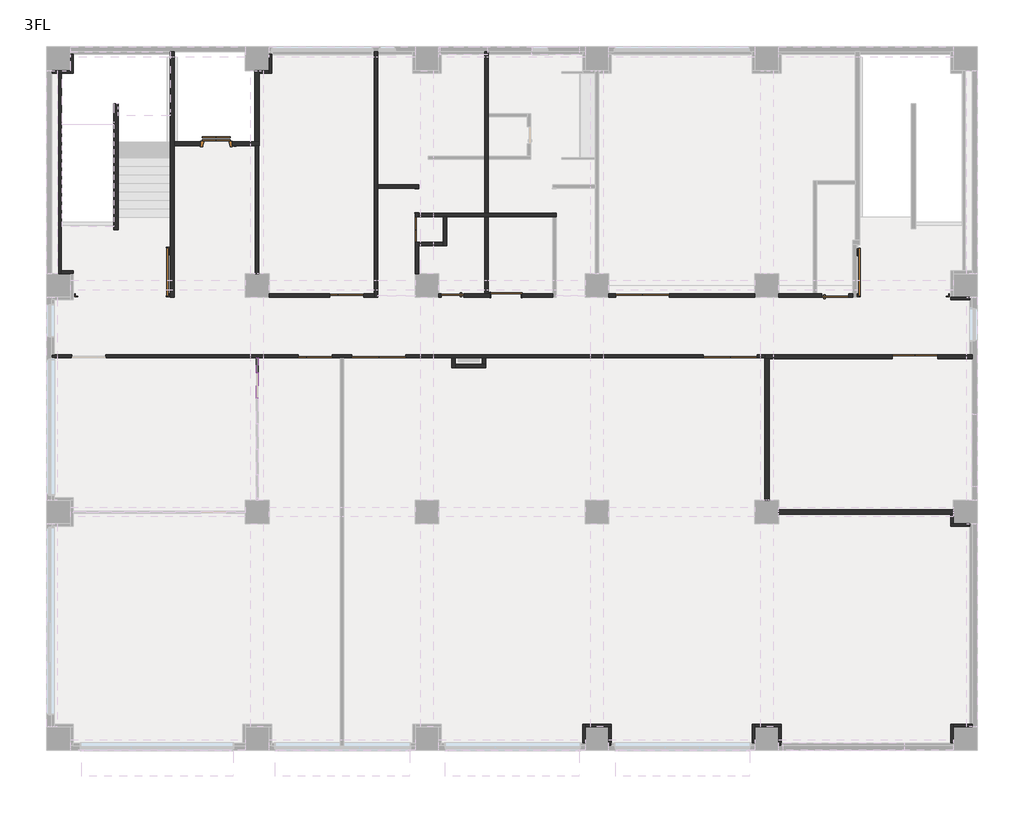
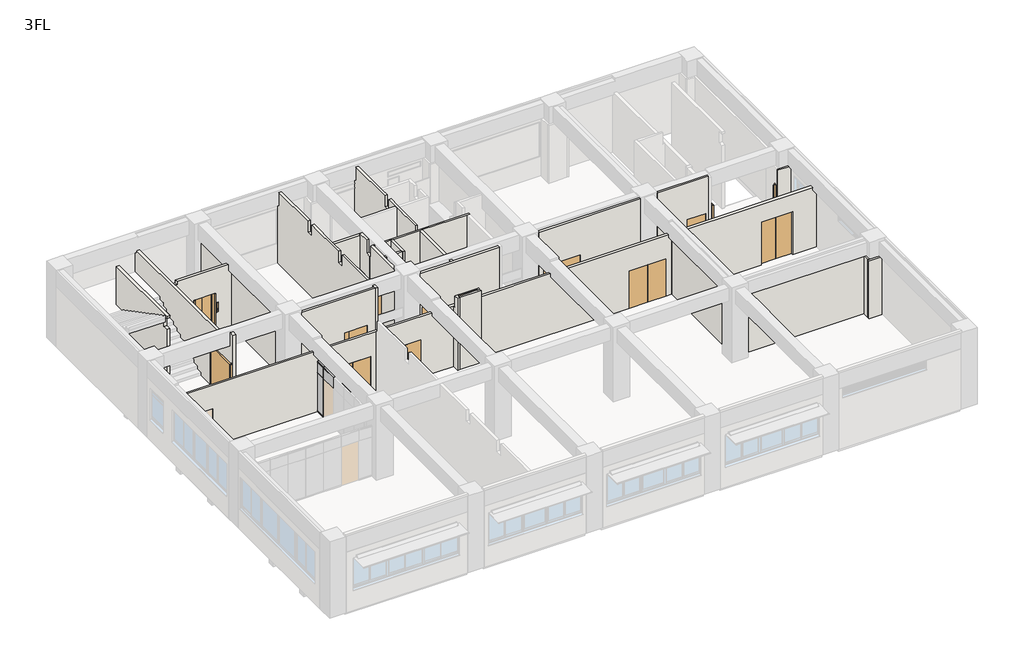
# One storey, part 2 of 6: 40 walls, 14 doors, 3 plates.
"""IFC4 building model written with IfcOpenShell, lengths in millimetres."""

from ifc_helpers import new_model, si_unit, frame, origin, place, context, project, spatial, polyline, outline, extrude, faceted_brep, transform, mapped, element, save
from components import door_0812e9ce, door_48d1ee04, door_c235f466, door_18b0804b, door_dd0264bc, door_2816d948, door_f9cae23c, door_7458d189, door_9fa6e922, door_14d6dc4f, sd12_bd36843f, sd13_d994cb3e, plate_95e3ff3d, plate_6b89f69e, plate_53a28b3e

model = new_model("IFC4")

# Units and contexts
model_context = context("Model", 3, world=origin())
ifc_project = project(units=[si_unit("LENGTHUNIT", "METRE", prefix="MILLI")], contexts=[model_context])

# Site, building, storey
site = spatial("IfcSite", under=ifc_project)
building = spatial("IfcBuilding", under=site)
storey = spatial("IfcBuildingStorey", under=building, Name="3FL", Elevation=8200.0)

# Doors
placement = place(None, origin())
door_shape = door_0812e9ce(model_context)
element("IfcDoor", 1, ObjectType="営_片開き扉 : LD3 950*2000", at=placement, inside=storey, context=model_context, shape_type="MappedRepresentation", body=[
    mapped(door_shape, transform((27410.0, 15640.0, 8200.0), x_axis=(1.0, 0.0, 0.0), y_axis=(0.0, 1.0, 0.0), z_axis=(0.0, 0.0, 1.0))),
])
door_2_shape = door_48d1ee04(model_context)
element("IfcDoor", 2, ObjectType="営_片開き扉 : LD11 850*2000", at=placement, inside=storey, context=model_context, shape_type="MappedRepresentation", body=[
    mapped(door_2_shape, transform((13900.0, 15640.0, 8200.0), x_axis=(-1.0, 0.0, 0.0), y_axis=(0.0, -1.0, 0.0), z_axis=(0.0, 0.0, 1.0))),
])
door_3_shape = door_c235f466(model_context)
element("IfcDoor", 3, ObjectType="営_親子扉 : LD2 1200*2000", at=placement, inside=storey, context=model_context, shape_type="MappedRepresentation", body=[
    mapped(door_3_shape, transform((9060.0, 13500.0, 8200.0), x_axis=(1.0, 0.0, 0.0), y_axis=(0.0, 1.0, 0.0), z_axis=(0.0, 0.0, 1.0))),
])
door_4_shape = door_18b0804b(model_context)
element("IfcDoor", 4, ObjectType="営_親子扉 : LD2 1200*2000", at=placement, inside=storey, context=model_context, shape_type="MappedRepresentation", body=[
    mapped(door_4_shape, transform((10162.645491, 15640.0, 8200.0), x_axis=(1.0, 0.0, 0.0), y_axis=(0.0, 1.0, 0.0), z_axis=(0.0, 0.0, 1.0))),
])
door_5_shape = door_dd0264bc(model_context)
element("IfcDoor", 5, ObjectType="営_両開き扉 : SD3b 1600*2300", at=placement, inside=storey, context=model_context, shape_type="MappedRepresentation", body=[
    mapped(door_5_shape, transform((30235.0, 13480.0, 8200.0), x_axis=(1.0, 0.0, 0.0), y_axis=(0.0, 1.0, 0.0), z_axis=(0.0, 0.0, 1.0))),
])
door_6_shape = door_2816d948(model_context)
element("IfcDoor", 6, ObjectType="営_両開き扉 : LD4 1900*2000", at=placement, inside=storey, context=model_context, shape_type="MappedRepresentation", body=[
    mapped(door_6_shape, transform((20610.0, 15640.0, 8200.0), x_axis=(1.0, 0.0, 0.0), y_axis=(0.0, 1.0, 0.0), z_axis=(0.0, 0.0, 1.0))),
])
element("IfcDoor", 7, ObjectType="営_両開き扉 : LD4 1900*2000", at=placement, inside=storey, context=model_context, shape_type="MappedRepresentation", body=[
    mapped(door_6_shape, transform((11290.0, 13500.0, 8200.0), x_axis=(-1.0, 0.0, 0.0), y_axis=(0.0, -1.0, 0.0), z_axis=(0.0, 0.0, 1.0))),
])
element("IfcDoor", 8, ObjectType="営_両開き扉 : LD4 1900*2000", at=placement, inside=storey, context=model_context, shape_type="MappedRepresentation", body=[
    mapped(door_6_shape, transform((23710.0, 13500.0, 8200.0), x_axis=(-1.0, 0.0, 0.0), y_axis=(0.0, -1.0, 0.0), z_axis=(0.0, 0.0, 1.0))),
])
door_7_shape = door_f9cae23c(model_context)
element("IfcDoor", 9, ObjectType="営_両開き扉 : LD5 900*2000", at=placement, inside=storey, context=model_context, shape_type="MappedRepresentation", body=[
    mapped(door_7_shape, transform((12640.0, 17975.0, 8200.0), x_axis=(0.0, 1.0, 0.0), y_axis=(-1.0, 0.0, 0.0), z_axis=(0.0, 0.0, 1.0))),
])
door_8_shape = door_7458d189(model_context)
element("IfcDoor", 10, ObjectType="営_引戸／引込戸 : LD1 960*2000", at=placement, inside=storey, context=model_context, shape_type="MappedRepresentation", body=[
    mapped(door_8_shape, transform((15800.0, 15640.0, 8200.0), x_axis=(1.0, 0.0, 0.0), y_axis=(0.0, 1.0, 0.0), z_axis=(0.0, 0.0, 1.0))),
])
door_9_shape = door_9fa6e922(model_context)
element("IfcDoor", 11, ObjectType="営_EVドア : EVドア", at=placement, inside=storey, context=model_context, shape_type="MappedRepresentation", body=[
    mapped(door_9_shape, transform((5560.0, 21000.0, 8200.0), x_axis=(1.0, 0.0, 0.0), y_axis=(0.0, 1.0, 0.0), z_axis=(0.0, 0.0, 1.0))),
])
door_10_shape = door_14d6dc4f(model_context)
element("IfcDoor", 12, ObjectType="営_三方枠 : S1_850*2000", at=placement, inside=storey, context=model_context, shape_type="MappedRepresentation", body=[
    mapped(door_10_shape, transform((12640.0, 18990.25, 8200.0), x_axis=(0.0, 1.0, 0.0), y_axis=(-1.0, 0.0, 0.0), z_axis=(0.0, 0.0, 1.0))),
])
sd12_shape = sd12_bd36843f(model_context)
element("IfcDoor", 13, ObjectType="営_随閉扉 B階段 2～4F : SD12", at=placement, inside=storey, context=model_context, shape_type="MappedRepresentation", body=[
    mapped(sd12_shape, transform((4000.0, 15640.0, 8200.0), x_axis=(0.0, -1.0, 0.0), y_axis=(1.0, 0.0, 0.0), z_axis=(0.0, 0.0, 1.0))),
])
sd13_shape = sd13_d994cb3e(model_context)
element("IfcDoor", 14, ObjectType="営_随閉扉 B階段 2～4F : SD13", at=placement, inside=storey, context=model_context, shape_type="MappedRepresentation", body=[
    mapped(sd13_shape, transform((28100.0, 15640.0, 8200.0), x_axis=(0.0, -1.0, 0.0), y_axis=(1.0, 0.0, 0.0), z_axis=(0.0, 0.0, 1.0))),
])

# Plates
plate_shape = plate_95e3ff3d(model_context)
element("IfcPlate", 15, ObjectType="営_パーティションパネル_下部 : パーティションパネル_下部", at=placement, inside=storey, context=model_context, shape_type="MappedRepresentation", body=[
    mapped(plate_shape, transform((7000.0, 13175.0000002, 8200.0), x_axis=(0.0, 1.0, 0.0), y_axis=(-1.0, 0.0, 0.0), z_axis=(0.0, 0.0, 1.0))),
])
plate_2_shape = plate_6b89f69e(model_context)
element("IfcPlate", 16, ObjectType="営_パーティションパネル_上部 : パーティションパネル_上部", at=placement, inside=storey, context=model_context, shape_type="MappedRepresentation", body=[
    mapped(plate_2_shape, transform((7000.0, 13175.0000002, 10300.0), x_axis=(0.0, 1.0, 0.0), y_axis=(-1.0, 0.0, 0.0), z_axis=(0.0, 0.0, 1.0))),
])
plate_3_shape = plate_53a28b3e(model_context)
element("IfcPlate", 17, ObjectType="営_パーティションパネル_上部 : パーティションパネル_上部", at=placement, inside=storey, context=model_context, shape_type="MappedRepresentation", body=[
    mapped(plate_3_shape, transform((7000.0, 12460.0000003, 10300.0), x_axis=(0.0, 1.0, 0.0), y_axis=(-1.0, 0.0, 0.0), z_axis=(0.0, 0.0, 1.0))),
])

# Walls
element("IfcWall", 18, ObjectType="(内壁)W3", at=placement, inside=storey, context=model_context, shape_type="Brep", body=[
    faceted_brep([(1655.0, 13440.0, 10200.0), (1655.0, 13440.0, 8200.0), (8460.0, 13440.0, 8200.0), (8460.0, 13440.0, 10200.0), (9660.0, 13440.0, 10200.0), (9660.0, 13440.0, 8200.0), (9940.0, 13440.0, 8200.0), (10060.0, 13440.0, 8200.0), (10340.0, 13440.0, 8200.0), (10340.0, 13440.0, 10200.0), (12240.0, 13440.0, 10200.0), (12240.0, 13440.0, 8200.0), (13870.0, 13440.0, 8200.0), (13990.0, 13440.0, 8200.0), (14950.0, 13440.0, 8200.0), (15070.0, 13440.0, 8200.0), (22760.0, 13440.0, 8200.0), (22760.0, 13440.0, 10200.0), (24660.0, 13440.0, 10200.0), (24660.0, 13440.0, 8200.0), (24925.0, 13440.0, 8200.0), (24925.0, 13440.0, 11300.0), (24775.0, 13440.0, 11300.0), (24775.0, 13440.0, 11450.0), (19225.0, 13440.0, 11450.0), (19225.0, 13440.0, 11300.0), (18775.0, 13440.0, 11300.0), (18775.0, 13440.0, 11450.0), (15070.0, 13440.0, 11450.0), (14950.0, 13440.0, 11450.0), (13990.0, 13440.0, 11450.0), (13870.0, 13440.0, 11450.0), (13225.0, 13440.0, 11450.0), (13225.0, 13440.0, 11300.0), (12775.0, 13440.0, 11300.0), (12775.0, 13440.0, 11450.0), (10060.0, 13440.0, 11450.0), (9940.0, 13440.0, 11450.0), (7225.0, 13440.0, 11450.0), (7225.0, 13440.0, 11300.0), (6775.0, 13440.0, 11300.0), (6775.0, 13440.0, 11450.0), (-50.0, 13440.0, 11450.0), (-50.0, 13440.0, 11300.0), (-160.0, 13440.0, 11300.0), (-250.0, 13440.0, 11300.0), (-250.0, 13440.0, 8200.0), (-160.0, 13440.0, 8200.0), (455.0, 13440.0, 8200.0), (455.0, 13440.0, 10200.0), (1655.0, 13560.0, 8200.0), (1655.0, 13560.0, 10200.0), (455.0, 13560.0, 10200.0), (455.0, 13560.0, 8200.0), (-160.0, 13560.0, 8200.0), (-250.0, 13560.0, 8200.0), (-250.0, 13560.0, 11300.0), (-160.0, 13560.0, 11300.0), (-50.0, 13560.0, 11300.0), (-50.0, 13560.0, 11450.0), (6775.0, 13560.0, 11450.0), (6775.0, 13560.0, 11300.0), (7225.0, 13560.0, 11300.0), (7225.0, 13560.0, 11450.0), (12775.0, 13560.0, 11450.0), (12775.0, 13560.0, 11300.0), (13225.0, 13560.0, 11300.0), (13225.0, 13560.0, 11450.0), (18775.0, 13560.0, 11450.0), (18775.0, 13560.0, 11300.0), (19225.0, 13560.0, 11300.0), (19225.0, 13560.0, 11450.0), (24775.0, 13560.0, 11450.0), (24775.0, 13560.0, 11300.0), (24925.0, 13560.0, 11300.0), (24925.0, 13560.0, 8200.0), (24660.0, 13560.0, 8200.0), (24660.0, 13560.0, 10200.0), (22760.0, 13560.0, 10200.0), (22760.0, 13560.0, 8200.0), (12240.0, 13560.0, 8200.0), (12240.0, 13560.0, 10200.0), (10340.0, 13560.0, 10200.0), (10340.0, 13560.0, 8200.0), (9660.0, 13560.0, 8200.0), (9660.0, 13560.0, 10200.0), (8460.0, 13560.0, 10200.0), (8460.0, 13560.0, 8200.0), (24925.0, 13555.0, 8200.0), (24925.0, 13555.0, 11300.0)], [[[0, 1, 2, 3, 4, 5, 6, 7, 8, 9, 10, 11, 12, 13, 14, 15, 16, 17, 18, 19, 20, 21, 22, 23, 24, 25, 26, 27, 28, 29, 30, 31, 32, 33, 34, 35, 36, 37, 38, 39, 40, 41, 42, 43, 44, 45, 46, 47, 48, 49]], [[50, 51, 52, 53, 54, 55, 56, 57, 58, 59, 60, 61, 62, 63, 64, 65, 66, 67, 68, 69, 70, 71, 72, 73, 74, 75, 76, 77, 78, 79, 80, 81, 82, 83, 84, 85, 86, 87]], [[1, 50, 87, 2]], [[5, 84, 83, 8, 7, 6]], [[11, 80, 79, 16, 15, 14, 13, 12]], [[19, 76, 75, 88, 20]], [[46, 55, 54, 53, 48, 47]], [[59, 42, 41, 60]], [[63, 38, 37, 36, 35, 64]], [[67, 32, 31, 30, 29, 28, 27, 68]], [[71, 24, 23, 72]], [[55, 46, 45, 56]], [[1, 0, 51, 50]], [[49, 48, 53, 52]], [[0, 49, 52, 51]], [[87, 86, 3, 2]], [[85, 84, 5, 4]], [[86, 85, 4, 3]], [[11, 10, 81, 80]], [[9, 8, 83, 82]], [[10, 9, 82, 81]], [[19, 18, 77, 76]], [[17, 16, 79, 78]], [[18, 17, 78, 77]], [[20, 88, 75, 74, 89, 21]], [[58, 43, 42, 59]], [[43, 58, 57, 56, 45, 44]], [[62, 39, 38, 63]], [[39, 62, 61, 40]], [[40, 61, 60, 41]], [[66, 33, 32, 67]], [[33, 66, 65, 34]], [[34, 65, 64, 35]], [[70, 25, 24, 71]], [[25, 70, 69, 26]], [[26, 69, 68, 27]], [[73, 22, 21, 89, 74]], [[22, 73, 72, 23]]]),
])
element("IfcWall", 19, ObjectType="(内壁)150_RC", at=placement, inside=storey, context=model_context, shape_type="Brep", body=[
    faceted_brep([(24925.0, 13555.0, 11300.0), (25225.0, 13555.0, 11300.0), (25225.0, 13555.0, 11450.0), (32050.0, 13555.0, 11450.0), (32050.0, 13555.0, 11300.0), (32250.0, 13555.0, 11300.0), (32250.0, 13555.0, 8200.0), (31035.0, 13555.0, 8200.0), (31035.0, 13555.0, 10500.0), (29435.0, 13555.0, 10500.0), (29435.0, 13555.0, 8200.0), (24925.0, 13555.0, 8200.0), (25225.0, 13405.0, 11300.0), (25075.0, 13405.0, 11300.0), (24925.0, 13405.0, 11300.0), (24925.0, 13405.0, 8200.0), (25075.0, 13405.0, 8200.0), (29435.0, 13405.0, 8200.0), (29435.0, 13405.0, 10500.0), (31035.0, 13405.0, 10500.0), (31035.0, 13405.0, 8200.0), (32250.0, 13405.0, 8200.0), (32250.0, 13405.0, 11300.0), (32050.0, 13405.0, 11300.0), (32050.0, 13405.0, 11450.0), (25225.0, 13405.0, 11450.0), (24925.0, 13440.0, 8200.0), (24925.0, 13440.0, 11300.0)], [[[0, 1, 2, 3, 4, 5, 6, 7, 8, 9, 10, 11]], [[12, 13, 14, 15, 16, 17, 18, 19, 20, 21, 22, 23, 24, 25]], [[15, 26, 11, 10, 17, 16]], [[6, 21, 20, 7]], [[21, 6, 5, 22]], [[1, 12, 25, 2]], [[12, 1, 0, 27, 14, 13]], [[4, 23, 22, 5]], [[23, 4, 3, 24]], [[10, 9, 18, 17]], [[8, 7, 20, 19]], [[9, 8, 19, 18]], [[11, 26, 15, 14, 27, 0]], [[3, 2, 25, 24]]]),
])
element("IfcWall", 20, ObjectType="(内壁)150_RC", at=placement, inside=storey, context=model_context, shape_type="SweptSolid", body=[
    extrude(outline(polyline([(24925.0, 13405.0), (25075.0, 13405.0), (25075.0, 8420.0), (24925.0, 8420.0), (24925.0, 13405.0)])), frame((0.0, 0.0, 8200.0), z_axis=(0.0, 0.0, 1.0), x_axis=(1.0, 0.0, 0.0)), (0.0, 0.0, 1.0), 3100.0),
])
element("IfcWall", 21, ObjectType="(内壁)150_RC", at=placement, inside=storey, context=model_context, shape_type="Brep", body=[
    faceted_brep([(25420.0, 7925.0, 8200.0), (31580.0, 7925.0, 8200.0), (31580.0, 7925.0, 11300.0), (31580.0, 7925.0, 11350.0), (25420.0, 7925.0, 11350.0), (31580.0, 8075.0, 8200.0), (25420.0, 8075.0, 8200.0), (25420.0, 8075.0, 11350.0), (31580.0, 8075.0, 11350.0)], [[[0, 1, 2, 3, 4]], [[5, 6, 7, 8]], [[0, 6, 5, 1]], [[6, 0, 4, 7]], [[1, 5, 8, 3, 2]], [[4, 3, 8, 7]]]),
])
element("IfcWall", 22, ObjectType="(内壁)150_RC", at=placement, inside=storey, context=model_context, shape_type="Brep", body=[
    faceted_brep([(3925.0, 24250.0, 8200.0), (3925.0, 15580.0, 8200.0), (3925.0, 15580.0, 12050.0), (3925.0, 15825.0, 12050.0), (3925.0, 15825.0, 11450.0), (3925.0, 24050.0, 11450.0), (3925.0, 24050.0, 11350.0), (3925.0, 24250.0, 11350.0), (4075.0, 15580.0, 8200.0), (4075.0, 20925.0, 8200.0), (4075.0, 21075.0, 8200.0), (4075.0, 24250.0, 8200.0), (4075.0, 24250.0, 11350.0), (4075.0, 24050.0, 11350.0), (4075.0, 24050.0, 11450.0), (4075.0, 21075.0, 11450.0), (4075.0, 20925.0, 11450.0), (4075.0, 15825.0, 11450.0), (4075.0, 15825.0, 12050.0), (4075.0, 15580.0, 12050.0)], [[[0, 1, 2, 3, 4, 5, 6, 7]], [[8, 9, 10, 11, 12, 13, 14, 15, 16, 17, 18, 19]], [[1, 0, 11, 10, 9, 8]], [[2, 1, 8, 19]], [[2, 19, 18, 3]], [[11, 0, 7, 12]], [[13, 6, 5, 14]], [[6, 13, 12, 7]], [[4, 17, 16, 15, 14, 5]], [[17, 4, 3, 18]]]),
])
element("IfcWall", 23, ObjectType="(内壁)150_RC", at=placement, inside=storey, context=model_context, shape_type="Brep", body=[
    faceted_brep([(7075.0, 20925.0, 11300.0), (7060.0, 20925.0, 11300.0), (6940.0, 20925.0, 11300.0), (6775.0, 20925.0, 11300.0), (6775.0, 20925.0, 11600.0), (4175.0, 20925.0, 11600.0), (4175.0, 20925.0, 11450.0), (4075.0, 20925.0, 11450.0), (4075.0, 20925.0, 8200.0), (5000.0, 20925.0, 8200.0), (5000.0, 20925.0, 10300.0), (6120.0, 20925.0, 10300.0), (6120.0, 20925.0, 8200.0), (6940.0, 20925.0, 8200.0), (7060.0, 20925.0, 8200.0), (7075.0, 20925.0, 8200.0), (6775.0, 21075.0, 11300.0), (6925.0, 21075.0, 11300.0), (7075.0, 21075.0, 11300.0), (7075.0, 21075.0, 8200.0), (6925.0, 21075.0, 8200.0), (6120.0, 21075.0, 8200.0), (6120.0, 21075.0, 10300.0), (5000.0, 21075.0, 10300.0), (5000.0, 21075.0, 8200.0), (4075.0, 21075.0, 8200.0), (4075.0, 21075.0, 11450.0), (4175.0, 21075.0, 11450.0), (4175.0, 21075.0, 11600.0), (6775.0, 21075.0, 11600.0)], [[[0, 1, 2, 3, 4, 5, 6, 7, 8, 9, 10, 11, 12, 13, 14, 15]], [[16, 17, 18, 19, 20, 21, 22, 23, 24, 25, 26, 27, 28, 29]], [[19, 15, 14, 13, 12, 21, 20]], [[8, 25, 24, 9]], [[15, 19, 18, 0]], [[25, 8, 7, 26]], [[16, 3, 2, 1, 0, 18, 17]], [[3, 16, 29, 4]], [[24, 23, 10, 9]], [[22, 21, 12, 11]], [[23, 22, 11, 10]], [[4, 29, 28, 5]], [[27, 6, 5, 28]], [[6, 27, 26, 7]]]),
])
element("IfcWall", 24, ObjectType="(内壁)150_RC", at=placement, inside=storey, context=model_context, shape_type="Brep", body=[
    faceted_brep([(7075.0, 21075.0, 8200.0), (7075.0, 23490.0, 8200.0), (7075.0, 23580.0, 8200.0), (7075.0, 23580.0, 11300.0), (7075.0, 23490.0, 11300.0), (7075.0, 21075.0, 11300.0), (6925.0, 23580.0, 8200.0), (6925.0, 21075.0, 8200.0), (6925.0, 21075.0, 11300.0), (6925.0, 23580.0, 11300.0)], [[[0, 1, 2, 3, 4, 5]], [[6, 7, 8, 9]], [[0, 7, 6, 2, 1]], [[7, 0, 5, 8]], [[2, 6, 9, 3]], [[5, 4, 3, 9, 8]]]),
])
element("IfcWall", 25, ObjectType="(内壁)W4", at=placement, inside=storey, context=model_context, shape_type="SweptSolid", body=[
    extrude(outline(polyline([(6940.0, 20925.0), (7060.0, 20925.0), (7060.0, 16420.0), (6940.0, 16420.0), (6940.0, 20925.0)])), frame((0.0, 0.0, 8200.0), z_axis=(0.0, 0.0, 1.0), x_axis=(1.0, 0.0, 0.0)), (0.0, 0.0, 1.0), 3100.0),
])
element("IfcWall", 26, ObjectType="(内壁)W3", at=placement, inside=storey, context=model_context, shape_type="Brep", body=[
    faceted_brep([(19660.0, 15700.0, 10200.0), (19660.0, 15700.0, 8200.0), (19420.0, 15700.0, 8200.0), (19420.0, 15700.0, 12140.0), (24580.0, 15700.0, 12140.0), (24580.0, 15700.0, 8200.0), (21560.0, 15700.0, 8200.0), (21560.0, 15700.0, 10200.0), (19660.0, 15580.0, 8200.0), (19660.0, 15580.0, 10200.0), (21560.0, 15580.0, 10200.0), (21560.0, 15580.0, 8200.0), (24580.0, 15580.0, 8200.0), (24580.0, 15580.0, 12140.0), (19420.0, 15580.0, 12140.0), (19420.0, 15580.0, 8200.0)], [[[0, 1, 2, 3, 4, 5, 6, 7]], [[8, 9, 10, 11, 12, 13, 14, 15]], [[1, 8, 15, 2]], [[11, 6, 5, 12]], [[3, 14, 13, 4]], [[1, 0, 9, 8]], [[7, 6, 11, 10]], [[0, 7, 10, 9]], [[3, 2, 15, 14]], [[5, 4, 13, 12]]]),
    faceted_brep([(26935.0, 15700.0, 10200.0), (26935.0, 15700.0, 8200.0), (26760.0, 15700.0, 8200.0), (26640.0, 15700.0, 8200.0), (25420.0, 15700.0, 8200.0), (25420.0, 15700.0, 12140.0), (28025.0, 15700.0, 12140.0), (28025.0, 15700.0, 8200.0), (27885.0, 15700.0, 8200.0), (27885.0, 15700.0, 10200.0), (26935.0, 15580.0, 8200.0), (26935.0, 15580.0, 10200.0), (27885.0, 15580.0, 10200.0), (27885.0, 15580.0, 8200.0), (28025.0, 15580.0, 8200.0), (28025.0, 15580.0, 12050.0), (28025.0, 15580.0, 12140.0), (25420.0, 15580.0, 12140.0), (25420.0, 15580.0, 8200.0)], [[[0, 1, 2, 3, 4, 5, 6, 7, 8, 9]], [[10, 11, 12, 13, 14, 15, 16, 17, 18]], [[1, 10, 18, 4, 3, 2]], [[13, 8, 7, 14]], [[16, 6, 5, 17]], [[1, 0, 11, 10]], [[9, 8, 13, 12]], [[0, 9, 12, 11]], [[5, 4, 18, 17]], [[7, 6, 16, 15, 14]]]),
])
element("IfcWall", 27, ObjectType="(内壁)W4", at=placement, inside=storey, context=model_context, shape_type="Brep", body=[
    faceted_brep([(11140.0, 24250.0, 8200.0), (11140.0, 15700.0, 8200.0), (11140.0, 15580.0, 8200.0), (11140.0, 15580.0, 12050.0), (11140.0, 15700.0, 12050.0), (11140.0, 15825.0, 12050.0), (11140.0, 15825.0, 11350.0), (11140.0, 16175.0, 11350.0), (11140.0, 16175.0, 12050.0), (11140.0, 18495.0, 12050.0), (11140.0, 18495.0, 11450.0), (11140.0, 18845.0, 11450.0), (11140.0, 18845.0, 12050.0), (11140.0, 21165.0, 12050.0), (11140.0, 21165.0, 11450.0), (11140.0, 21515.0, 11450.0), (11140.0, 21515.0, 12050.0), (11140.0, 24050.0, 12050.0), (11140.0, 24050.0, 11350.0), (11140.0, 24250.0, 11350.0), (11260.0, 15580.0, 8200.0), (11260.0, 19430.0, 8200.0), (11260.0, 19550.0, 8200.0), (11260.0, 24250.0, 8200.0), (11260.0, 24250.0, 11350.0), (11260.0, 24050.0, 11350.0), (11260.0, 24050.0, 12050.0), (11260.0, 21515.0, 12050.0), (11260.0, 21515.0, 11450.0), (11260.0, 21165.0, 11450.0), (11260.0, 21165.0, 12050.0), (11260.0, 19550.0, 12050.0), (11260.0, 19430.0, 12050.0), (11260.0, 18845.0, 12050.0), (11260.0, 18845.0, 11450.0), (11260.0, 18495.0, 11450.0), (11260.0, 18495.0, 12050.0), (11260.0, 16175.0, 12050.0), (11260.0, 16175.0, 11350.0), (11260.0, 15825.0, 11350.0), (11260.0, 15825.0, 12050.0), (11260.0, 15580.0, 12050.0)], [[[0, 1, 2, 3, 4, 5, 6, 7, 8, 9, 10, 11, 12, 13, 14, 15, 16, 17, 18, 19]], [[20, 21, 22, 23, 24, 25, 26, 27, 28, 29, 30, 31, 32, 33, 34, 35, 36, 37, 38, 39, 40, 41]], [[2, 1, 0, 23, 22, 21, 20]], [[8, 37, 36, 9]], [[26, 17, 16, 27]], [[5, 4, 3, 41, 40]], [[12, 33, 32, 31, 30, 13]], [[23, 0, 19, 24]], [[39, 6, 5, 40]], [[6, 39, 38, 7]], [[7, 38, 37, 8]], [[25, 18, 17, 26]], [[18, 25, 24, 19]], [[35, 10, 9, 36]], [[10, 35, 34, 11]], [[11, 34, 33, 12]], [[29, 14, 13, 30]], [[14, 29, 28, 15]], [[15, 28, 27, 16]], [[3, 2, 20, 41]]]),
])
element("IfcWall", 28, ObjectType="(内壁)W4", at=placement, inside=storey, context=model_context, shape_type="Brep", body=[
    faceted_brep([(12700.0, 17525.0, 8200.0), (12700.0, 17525.0, 10200.0), (12700.0, 18425.0, 10200.0), (12700.0, 18425.0, 8200.0), (12700.0, 18430.0, 8200.0), (12700.0, 18550.0, 8200.0), (12700.0, 18550.0, 11450.0), (12700.0, 18495.0, 11450.0), (12700.0, 18495.0, 12050.0), (12700.0, 18430.0, 12050.0), (12700.0, 17520.0, 12050.0), (12700.0, 17400.0, 12050.0), (12700.0, 16420.0, 12050.0), (12700.0, 16420.0, 8200.0), (12700.0, 17400.0, 8200.0), (12700.0, 17520.0, 8200.0), (12580.0, 17525.0, 10200.0), (12580.0, 17525.0, 8200.0), (12580.0, 16420.0, 8200.0), (12580.0, 16420.0, 12050.0), (12580.0, 18495.0, 12050.0), (12580.0, 18495.0, 11450.0), (12580.0, 18550.0, 11450.0), (12580.0, 18550.0, 8200.0), (12580.0, 18425.0, 8200.0), (12580.0, 18425.0, 10200.0)], [[[0, 1, 2, 3, 4, 5, 6, 7, 8, 9, 10, 11, 12, 13, 14, 15]], [[16, 17, 18, 19, 20, 21, 22, 23, 24, 25]], [[17, 0, 15, 14, 13, 18]], [[23, 5, 4, 3, 24]], [[19, 12, 11, 10, 9, 8, 20]], [[5, 23, 22, 6]], [[17, 16, 1, 0]], [[25, 24, 3, 2]], [[16, 25, 2, 1]], [[13, 12, 19, 18]], [[7, 21, 20, 8]], [[21, 7, 6, 22]]]),
])
element("IfcWall", 29, ObjectType="(内壁)W4", at=placement, inside=storey, context=model_context, shape_type="Brep", body=[
    faceted_brep([(12700.0, 18430.0, 8200.0), (13570.0, 18430.0, 8200.0), (13690.0, 18430.0, 8200.0), (15040.0, 18430.0, 8200.0), (15160.0, 18430.0, 8200.0), (17440.0, 18430.0, 8200.0), (17560.0, 18430.0, 8200.0), (17560.0, 18430.0, 12050.0), (17440.0, 18430.0, 12050.0), (15160.0, 18430.0, 12050.0), (15040.0, 18430.0, 12050.0), (13690.0, 18430.0, 12050.0), (13570.0, 18430.0, 12050.0), (13225.0, 18430.0, 12050.0), (13225.0, 18430.0, 11300.0), (12775.0, 18430.0, 11300.0), (12775.0, 18430.0, 12050.0), (12700.0, 18430.0, 12050.0), (17560.0, 18550.0, 8200.0), (17440.0, 18550.0, 8200.0), (15160.0, 18550.0, 8200.0), (15040.0, 18550.0, 8200.0), (12700.0, 18550.0, 8200.0), (12700.0, 18550.0, 11450.0), (12775.0, 18550.0, 11450.0), (12775.0, 18550.0, 11300.0), (13225.0, 18550.0, 11300.0), (13225.0, 18550.0, 11450.0), (15040.0, 18550.0, 11450.0), (15160.0, 18550.0, 11450.0), (17440.0, 18550.0, 11450.0), (17560.0, 18550.0, 11450.0), (12775.0, 18495.0, 12050.0), (12700.0, 18495.0, 12050.0), (17560.0, 18495.0, 12050.0), (13225.0, 18495.0, 12050.0), (12700.0, 18495.0, 11450.0), (17560.0, 18495.0, 11450.0), (13225.0, 18495.0, 11450.0), (12775.0, 18495.0, 11450.0)], [[[0, 1, 2, 3, 4, 5, 6, 7, 8, 9, 10, 11, 12, 13, 14, 15, 16, 17]], [[18, 19, 20, 21, 22, 23, 24, 25, 26, 27, 28, 29, 30, 31]], [[6, 5, 4, 3, 2, 1, 0, 22, 21, 20, 19, 18]], [[17, 16, 32, 33]], [[13, 12, 11, 10, 9, 8, 7, 34, 35]], [[0, 17, 33, 36, 23, 22]], [[7, 6, 18, 31, 37, 34]], [[26, 14, 13, 35, 38, 27]], [[14, 26, 25, 15]], [[15, 25, 24, 39, 32, 16]], [[37, 38, 35, 34]], [[38, 37, 31, 30, 29, 28, 27]], [[39, 36, 33, 32]], [[36, 39, 24, 23]]]),
])
element("IfcWall", 30, ObjectType="(内壁)W3", at=placement, inside=storey, context=model_context, shape_type="Brep", body=[
    faceted_brep([(13690.0, 17400.0, 8200.0), (13690.0, 18430.0, 8200.0), (13690.0, 18430.0, 12050.0), (13690.0, 17400.0, 12050.0), (13570.0, 17400.0, 8200.0), (13570.0, 17400.0, 12050.0), (13570.0, 17520.0, 12050.0), (13570.0, 18430.0, 12050.0), (13570.0, 18430.0, 8200.0), (13570.0, 17520.0, 8200.0)], [[[0, 1, 2, 3]], [[4, 5, 6, 7, 8, 9]], [[1, 0, 4, 9, 8]], [[3, 2, 7, 6, 5]], [[2, 1, 8, 7]], [[0, 3, 5, 4]]]),
])
element("IfcWall", 31, ObjectType="(内壁)W4", at=placement, inside=storey, context=model_context, shape_type="Brep", body=[
    faceted_brep([(11260.0, 19430.0, 8200.0), (12580.0, 19430.0, 8200.0), (12700.0, 19430.0, 8200.0), (12700.0, 19430.0, 12050.0), (11260.0, 19430.0, 12050.0), (11260.0, 19550.0, 8200.0), (11260.0, 19550.0, 12050.0), (12700.0, 19550.0, 12050.0), (12700.0, 19550.0, 8200.0)], [[[0, 1, 2, 3, 4]], [[5, 6, 7, 8]], [[2, 1, 0, 5, 8]], [[4, 3, 7, 6]], [[0, 4, 6, 5]], [[3, 2, 8, 7]]]),
])
element("IfcWall", 32, ObjectType="(内壁)W4", at=placement, inside=storey, context=model_context, shape_type="Brep", body=[
    faceted_brep([(15040.0, 15700.0, 8200.0), (15040.0, 15700.0, 12050.0), (15040.0, 15825.0, 12050.0), (15040.0, 15825.0, 11350.0), (15040.0, 16175.0, 11350.0), (15040.0, 16175.0, 12050.0), (15040.0, 18430.0, 12050.0), (15040.0, 18430.0, 8200.0), (15160.0, 15700.0, 12050.0), (15160.0, 15700.0, 8200.0), (15160.0, 18430.0, 8200.0), (15160.0, 18430.0, 12050.0), (15160.0, 16175.0, 12050.0), (15160.0, 16175.0, 11350.0), (15160.0, 15825.0, 11350.0), (15160.0, 15825.0, 12050.0)], [[[0, 1, 2, 3, 4, 5, 6, 7]], [[8, 9, 10, 11, 12, 13, 14, 15]], [[9, 0, 7, 10]], [[1, 8, 15, 2]], [[11, 6, 5, 12]], [[1, 0, 9, 8]], [[7, 6, 11, 10]], [[14, 3, 2, 15]], [[3, 14, 13, 4]], [[4, 13, 12, 5]]]),
    faceted_brep([(15040.0, 24250.0, 8200.0), (15040.0, 24160.0, 8200.0), (15040.0, 20570.0, 8200.0), (15040.0, 20450.0, 8200.0), (15040.0, 18550.0, 8200.0), (15040.0, 18550.0, 11450.0), (15040.0, 18845.0, 11450.0), (15040.0, 18845.0, 12050.0), (15040.0, 20450.0, 12050.0), (15040.0, 20570.0, 12050.0), (15040.0, 21165.0, 12050.0), (15040.0, 21165.0, 11450.0), (15040.0, 21515.0, 11450.0), (15040.0, 21515.0, 12050.0), (15040.0, 24050.0, 12050.0), (15040.0, 24050.0, 11350.0), (15040.0, 24250.0, 11350.0), (15040.0, 24250.0, 11300.0), (15160.0, 18550.0, 8200.0), (15160.0, 20450.0, 8200.0), (15160.0, 20570.0, 8200.0), (15160.0, 21950.0, 8200.0), (15160.0, 22070.0, 8200.0), (15160.0, 24160.0, 8200.0), (15160.0, 24250.0, 8200.0), (15160.0, 24250.0, 11300.0), (15160.0, 24250.0, 11350.0), (15160.0, 24050.0, 11350.0), (15160.0, 24050.0, 12050.0), (15160.0, 22070.0, 12050.0), (15160.0, 21950.0, 12050.0), (15160.0, 21515.0, 12050.0), (15160.0, 21515.0, 11450.0), (15160.0, 21165.0, 11450.0), (15160.0, 21165.0, 12050.0), (15160.0, 20570.0, 12050.0), (15160.0, 20450.0, 12050.0), (15160.0, 18845.0, 12050.0), (15160.0, 18845.0, 11450.0), (15160.0, 18550.0, 11450.0)], [[[0, 1, 2, 3, 4, 5, 6, 7, 8, 9, 10, 11, 12, 13, 14, 15, 16, 17]], [[18, 19, 20, 21, 22, 23, 24, 25, 26, 27, 28, 29, 30, 31, 32, 33, 34, 35, 36, 37, 38, 39]], [[0, 24, 23, 22, 21, 20, 19, 18, 4, 3, 2, 1]], [[28, 14, 13, 31, 30, 29]], [[7, 37, 36, 35, 34, 10, 9, 8]], [[24, 0, 17, 16, 26, 25]], [[4, 18, 39, 5]], [[27, 15, 14, 28]], [[15, 27, 26, 16]], [[38, 6, 5, 39]], [[6, 38, 37, 7]], [[33, 11, 10, 34]], [[11, 33, 32, 12]], [[12, 32, 31, 13]]]),
])
element("IfcWall", 33, ObjectType="(内壁)W3", at=placement, inside=storey, context=model_context, shape_type="SweptSolid", body=[
    extrude(outline(polyline([(8200.0, 12700.0), (8200.0, 13570.0), (12050.0, 13570.0), (12050.0, 13225.0), (11300.0, 13225.0), (11300.0, 12775.0), (12050.0, 12775.0), (12050.0, 12700.0), (8200.0, 12700.0)])), frame((0.0, 17400.0, 0.0), z_axis=(0.0, 1.0, 0.0), x_axis=(0.0, 0.0, 1.0)), (0.0, 0.0, 1.0), 120.0),
])
element("IfcWall", 34, ObjectType="(内壁)W4", at=placement, inside=storey, context=model_context, shape_type="SweptSolid", body=[
    extrude(outline(polyline([(10200.0, 9562.645491), (10200.0, 10762.645491), (8200.0, 10762.645491), (8200.0, 11140.0), (12050.0, 11140.0), (12050.0, 7420.0), (8200.0, 7420.0), (8200.0, 9562.645491), (10200.0, 9562.645491)])), frame((0.0, 15580.0, 0.0), z_axis=(0.0, 1.0, 0.0), x_axis=(0.0, 0.0, 1.0)), (0.0, 0.0, 1.0), 120.0),
])
element("IfcWall", 35, ObjectType="(内壁)W4", at=placement, inside=storey, context=model_context, shape_type="Brep", body=[
    faceted_brep([(15220.0, 15700.0, 10225.0), (15220.0, 15700.0, 8200.0), (15160.0, 15700.0, 8200.0), (15040.0, 15700.0, 8200.0), (14300.0, 15700.0, 8200.0), (14300.0, 15700.0, 10200.0), (13500.0, 15700.0, 10200.0), (13500.0, 15700.0, 8200.0), (13420.0, 15700.0, 8200.0), (13420.0, 15700.0, 12050.0), (15040.0, 15700.0, 12050.0), (15160.0, 15700.0, 12050.0), (17440.0, 15700.0, 12050.0), (17440.0, 15700.0, 8200.0), (16355.0, 15700.0, 8200.0), (16355.0, 15700.0, 10225.0), (16355.0, 15580.0, 8200.0), (17440.0, 15580.0, 8200.0), (17440.0, 15580.0, 12050.0), (13420.0, 15580.0, 12050.0), (13420.0, 15580.0, 8200.0), (13500.0, 15580.0, 8200.0), (13500.0, 15580.0, 10200.0), (14300.0, 15580.0, 10200.0), (14300.0, 15580.0, 8200.0), (15220.0, 15580.0, 8200.0), (15220.0, 15580.0, 10225.0), (16355.0, 15580.0, 10225.0)], [[[0, 1, 2, 3, 4, 5, 6, 7, 8, 9, 10, 11, 12, 13, 14, 15]], [[16, 17, 18, 19, 20, 21, 22, 23, 24, 25, 26, 27]], [[17, 16, 14, 13]], [[1, 25, 24, 4, 3, 2]], [[7, 21, 20, 8]], [[18, 12, 11, 10, 9, 19]], [[0, 26, 25, 1]], [[27, 15, 14, 16]], [[26, 0, 15, 27]], [[9, 8, 20, 19]], [[24, 23, 5, 4]], [[22, 21, 7, 6]], [[23, 22, 6, 5]], [[13, 12, 18, 17]]]),
])
element("IfcWall", 36, ObjectType="(内壁)120_部屋境界OFF", at=placement, inside=storey, context=model_context, shape_type="Brep", body=[
    faceted_brep([(12700.0, 18550.0, 8200.0), (12700.0, 18555.25, 8200.0), (12700.0, 18555.25, 10210.0), (12700.0, 19425.25, 10210.0), (12700.0, 19425.25, 8200.0), (12700.0, 19430.0, 8200.0), (12700.0, 19430.0, 12050.0), (12700.0, 19430.0, 12150.0), (12700.0, 18845.0, 12150.0), (12700.0, 18845.0, 11450.0), (12700.0, 18550.0, 11450.0), (12580.0, 18555.25, 8200.0), (12580.0, 18550.0, 8200.0), (12580.0, 18550.0, 11450.0), (12580.0, 18845.0, 11450.0), (12580.0, 18845.0, 12150.0), (12580.0, 19430.0, 12150.0), (12580.0, 19430.0, 8200.0), (12580.0, 19425.25, 8200.0), (12580.0, 19425.25, 10210.0), (12580.0, 18555.25, 10210.0)], [[[0, 1, 2, 3, 4, 5, 6, 7, 8, 9, 10]], [[11, 12, 13, 14, 15, 16, 17, 18, 19, 20]], [[12, 11, 1, 0]], [[5, 4, 18, 17]], [[7, 16, 15, 8]], [[12, 0, 10, 13]], [[20, 2, 1, 11]], [[2, 20, 19, 3]], [[3, 19, 18, 4]], [[7, 6, 5, 17, 16]], [[9, 14, 13, 10]], [[14, 9, 8, 15]]]),
])
element("IfcWall", 37, ObjectType="(内壁)150_RC", at=placement, inside=storey, context=model_context, shape_type="SweptSolid", body=[
    extrude(outline(polyline([(22410.0, 8200.0), (17975.0, 8200.0), (17975.0, 11600.0), (18225.0, 11600.0), (18225.0, 12200.0), (17975.0, 12200.0), (17975.0, 12300.0), (22410.0, 12300.0), (22410.0, 8200.0)])), frame((1945.0, 0.0, 0.0), z_axis=(1.0, 0.0, 0.0), x_axis=(0.0, 1.0, 0.0)), (0.0, 0.0, 1.0), 150.0),
])
element("IfcWall", 38, ObjectType="(内壁)W5", at=placement, inside=storey, context=model_context, shape_type="Brep", body=[
    faceted_brep([(32160.0, 15580.0, 8200.0), (31580.0, 15580.0, 8200.0), (31490.0, 15580.0, 8200.0), (31490.0, 15580.0, 11300.0), (31580.0, 15580.0, 11300.0), (32160.0, 15580.0, 11300.0), (32160.0, 15490.0, 8200.0), (32160.0, 15490.0, 11300.0), (31490.0, 15490.0, 11300.0), (31490.0, 15490.0, 8200.0)], [[[0, 1, 2, 3, 4, 5]], [[6, 7, 8, 9]], [[2, 1, 0, 6, 9]], [[5, 4, 3, 8, 7]], [[0, 5, 7, 6]], [[3, 2, 9, 8]]]),
])
element("IfcWall", 39, ObjectType="(内壁)W5", at=placement, inside=storey, context=model_context, shape_type="Brep", body=[
    faceted_brep([(7420.0, 24160.6075581, 8200.0), (7420.0, 23580.0, 8200.0), (7420.0, 23490.0, 8200.0), (7420.0, 23490.0, 11300.0), (7420.0, 23580.0, 11300.0), (7420.0, 24160.6075581, 11300.0), (7510.0, 24160.6075581, 8200.0), (7510.0, 24160.6075581, 9265.0), (7510.0, 24160.6075581, 11120.0), (7510.0, 24160.6075581, 11300.0), (7510.0, 23490.0, 11300.0), (7510.0, 23490.0, 8200.0)], [[[0, 1, 2, 3, 4, 5]], [[6, 7, 8, 9, 10, 11]], [[2, 1, 0, 6, 11]], [[5, 4, 3, 10, 9]], [[0, 5, 9, 8, 7, 6]], [[3, 2, 11, 10]]]),
])
element("IfcWall", 40, ObjectType="(内壁)W5", at=placement, inside=storey, context=model_context, shape_type="SweptSolid", body=[
    extrude(outline(polyline([(7075.0, 23580.0), (7420.0, 23580.0), (7420.0, 23490.0), (7075.0, 23490.0), (7075.0, 23580.0)])), frame((0.0, 0.0, 8200.0), z_axis=(0.0, 0.0, 1.0), x_axis=(1.0, 0.0, 0.0)), (0.0, 0.0, 1.0), 3100.0),
])
element("IfcWall", 41, ObjectType="(内壁)W5", at=placement, inside=storey, context=model_context, shape_type="Brep", body=[
    faceted_brep([(420.0, 24160.0, 8200.0), (420.0, 23580.0, 8200.0), (420.0, 23490.0, 8200.0), (420.0, 23490.0, 11300.0), (420.0, 23580.0, 11300.0), (420.0, 24160.0, 11300.0), (510.0, 24160.0, 8200.0), (510.0, 24160.0, 11300.0), (510.0, 23490.0, 11300.0), (510.0, 23490.0, 8200.0)], [[[0, 1, 2, 3, 4, 5]], [[6, 7, 8, 9]], [[2, 1, 0, 6, 9]], [[5, 4, 3, 8, 7]], [[0, 5, 7, 6]], [[3, 2, 9, 8]]]),
])
element("IfcWall", 42, ObjectType="(内壁)W5", at=placement, inside=storey, context=model_context, shape_type="Brep", body=[
    faceted_brep([(420.0, 23580.0, 8200.0), (-250.0, 23580.0, 8200.0), (-250.0, 23580.0, 11300.0), (420.0, 23580.0, 11300.0), (420.0, 23490.0, 8200.0), (420.0, 23490.0, 11300.0), (90.0, 23490.0, 11300.0), (0.0, 23490.0, 11300.0), (-250.0, 23490.0, 11300.0), (-250.0, 23490.0, 8200.0), (0.0, 23490.0, 8200.0), (90.0, 23490.0, 8200.0)], [[[0, 1, 2, 3]], [[4, 5, 6, 7, 8, 9, 10, 11]], [[1, 0, 4, 11, 10, 9]], [[3, 2, 8, 7, 6, 5]], [[0, 3, 5, 4]], [[2, 1, 9, 8]]]),
])
element("IfcWall", 43, ObjectType="(内壁)W5", at=placement, inside=storey, context=model_context, shape_type="Brep", body=[
    faceted_brep([(0.0, 23490.0, 8200.0), (0.0, 16420.0, 8200.0), (0.0, 16420.0, 11300.0), (0.0, 23490.0, 11300.0), (90.0, 23490.0, 8200.0), (90.0, 23490.0, 11300.0), (90.0, 16510.0, 11300.0), (90.0, 16420.0, 11300.0), (90.0, 16420.0, 8200.0), (90.0, 16510.0, 8200.0)], [[[0, 1, 2, 3]], [[4, 5, 6, 7, 8, 9]], [[1, 0, 4, 9, 8]], [[3, 2, 7, 6, 5]], [[0, 3, 5, 4]], [[2, 1, 8, 7]]]),
])
element("IfcWall", 44, ObjectType="(内壁)W5", at=placement, inside=storey, context=model_context, shape_type="Brep", body=[
    faceted_brep([(90.0, 16420.0, 8200.0), (420.0, 16420.0, 8200.0), (510.0, 16420.0, 8200.0), (510.0, 16420.0, 11300.0), (420.0, 16420.0, 11300.0), (90.0, 16420.0, 11300.0), (90.0, 16510.0, 8200.0), (90.0, 16510.0, 11300.0), (510.0, 16510.0, 11300.0), (510.0, 16510.0, 8200.0)], [[[0, 1, 2, 3, 4, 5]], [[6, 7, 8, 9]], [[2, 1, 0, 6, 9]], [[5, 4, 3, 8, 7]], [[0, 5, 7, 6]], [[3, 2, 9, 8]]]),
])
element("IfcWall", 45, ObjectType="(内壁)W5", at=placement, inside=storey, context=model_context, shape_type="Brep", body=[
    faceted_brep([(18580.0, -160.0, 8100.0), (18580.0, 420.0, 8100.0), (18580.0, 510.0, 8100.0), (18580.0, 510.0, 11300.0), (18580.0, 420.0, 11300.0), (18580.0, -160.0, 11300.0), (18490.0, -160.0, 8100.0), (18490.0, -160.0, 11300.0), (18490.0, 510.0, 11300.0), (18490.0, 510.0, 8100.0)], [[[0, 1, 2, 3, 4, 5]], [[6, 7, 8, 9]], [[2, 1, 0, 6, 9]], [[5, 4, 3, 8, 7]], [[0, 5, 7, 6]], [[3, 2, 9, 8]]]),
])
element("IfcWall", 46, ObjectType="(内壁)W5", at=placement, inside=storey, context=model_context, shape_type="Brep", body=[
    faceted_brep([(18580.0, 420.0, 8100.0), (19420.0, 420.0, 8100.0), (19510.0, 420.0, 8100.0), (19510.0, 420.0, 11300.0), (19420.0, 420.0, 11300.0), (18580.0, 420.0, 11300.0), (18580.0, 510.0, 8100.0), (18580.0, 510.0, 11300.0), (19510.0, 510.0, 11300.0), (19510.0, 510.0, 8100.0)], [[[0, 1, 2, 3, 4, 5]], [[6, 7, 8, 9]], [[2, 1, 0, 6, 9]], [[5, 4, 3, 8, 7]], [[0, 5, 7, 6]], [[3, 2, 9, 8]]]),
])
element("IfcWall", 47, ObjectType="(内壁)W5", at=placement, inside=storey, context=model_context, shape_type="Brep", body=[
    faceted_brep([(19420.0, 420.0, 8100.0), (19420.0, -250.0, 8100.0), (19420.0, -250.0, 11300.0), (19420.0, 420.0, 11300.0), (19510.0, 420.0, 8100.0), (19510.0, 420.0, 11300.0), (19510.0, -160.0, 11300.0), (19510.0, -250.0, 11300.0), (19510.0, -250.0, 8100.0), (19510.0, -160.0, 8100.0)], [[[0, 1, 2, 3]], [[4, 5, 6, 7, 8, 9]], [[1, 0, 4, 9, 8]], [[3, 2, 7, 6, 5]], [[0, 3, 5, 4]], [[2, 1, 8, 7]]]),
])
element("IfcWall", 48, ObjectType="(内壁)W5", at=placement, inside=storey, context=model_context, shape_type="Brep", body=[
    faceted_brep([(24580.0, -160.0, 8100.0), (24580.0, 420.0, 8100.0), (24580.0, 510.0, 8100.0), (24580.0, 510.0, 11300.0), (24580.0, 420.0, 11300.0), (24580.0, -160.0, 11300.0), (24490.0, -160.0, 8100.0), (24490.0, -160.0, 11300.0), (24490.0, 510.0, 11300.0), (24490.0, 510.0, 8100.0)], [[[0, 1, 2, 3, 4, 5]], [[6, 7, 8, 9]], [[2, 1, 0, 6, 9]], [[5, 4, 3, 8, 7]], [[0, 5, 7, 6]], [[3, 2, 9, 8]]]),
])
element("IfcWall", 49, ObjectType="(内壁)W5", at=placement, inside=storey, context=model_context, shape_type="Brep", body=[
    faceted_brep([(24580.0, 420.0, 8100.0), (25420.0, 420.0, 8100.0), (25510.0, 420.0, 8100.0), (25510.0, 420.0, 11300.0), (25420.0, 420.0, 11300.0), (24580.0, 420.0, 11300.0), (24580.0, 510.0, 8100.0), (24580.0, 510.0, 11300.0), (25510.0, 510.0, 11300.0), (25510.0, 510.0, 8100.0)], [[[0, 1, 2, 3, 4, 5]], [[6, 7, 8, 9]], [[2, 1, 0, 6, 9]], [[5, 4, 3, 8, 7]], [[0, 5, 7, 6]], [[3, 2, 9, 8]]]),
])
element("IfcWall", 50, ObjectType="(内壁)W5", at=placement, inside=storey, context=model_context, shape_type="Brep", body=[
    faceted_brep([(25420.0, 420.0, 8100.0), (25420.0, -250.0, 8100.0), (25420.0, -250.0, 11300.0), (25420.0, 420.0, 11300.0), (25510.0, 420.0, 8100.0), (25510.0, 420.0, 11300.0), (25510.0, -250.0, 11300.0), (25510.0, -250.0, 8180.0), (25510.0, -250.0, 8100.0)], [[[0, 1, 2, 3]], [[4, 5, 6, 7, 8]], [[1, 0, 4, 8]], [[3, 2, 6, 5]], [[0, 3, 5, 4]], [[1, 8, 7, 6, 2]]]),
])
element("IfcWall", 51, ObjectType="(内壁)W5", at=placement, inside=storey, context=model_context, shape_type="Brep", body=[
    faceted_brep([(31580.0, -160.0, 8100.0), (31580.0, 420.0, 8100.0), (31580.0, 510.0, 8100.0), (31580.0, 510.0, 11300.0), (31580.0, 420.0, 11300.0), (31580.0, -160.0, 11300.0), (31580.0, -160.0, 8180.0), (31490.0, -160.0, 8100.0), (31490.0, -160.0, 11300.0), (31490.0, 510.0, 11300.0), (31490.0, 510.0, 8100.0)], [[[0, 1, 2, 3, 4, 5, 6]], [[7, 8, 9, 10]], [[2, 1, 0, 7, 10]], [[5, 4, 3, 9, 8]], [[0, 6, 5, 8, 7]], [[3, 2, 10, 9]]]),
])
element("IfcWall", 52, ObjectType="(内壁)W5", at=placement, inside=storey, context=model_context, shape_type="Brep", body=[
    faceted_brep([(31580.0, 420.0, 8100.0), (32250.0, 420.0, 8100.0), (32250.0, 420.0, 11300.0), (31580.0, 420.0, 11300.0), (31580.0, 510.0, 8100.0), (31580.0, 510.0, 11300.0), (32160.0, 510.0, 11300.0), (32250.0, 510.0, 11300.0), (32250.0, 510.0, 8100.0), (32160.0, 510.0, 8100.0)], [[[0, 1, 2, 3]], [[4, 5, 6, 7, 8, 9]], [[1, 0, 4, 9, 8]], [[3, 2, 7, 6, 5]], [[0, 3, 5, 4]], [[2, 1, 8, 7]]]),
])
element("IfcWall", 53, ObjectType="(内壁)W5", at=placement, inside=storey, context=model_context, shape_type="Brep", body=[
    faceted_brep([(32160.0, 7580.0, 8100.0), (31580.0, 7580.0, 8100.0), (31490.0, 7580.0, 8100.0), (31490.0, 7580.0, 11300.0), (31580.0, 7580.0, 11300.0), (32160.0, 7580.0, 11300.0), (32160.0, 7490.0, 8100.0), (32160.0, 7490.0, 11300.0), (31490.0, 7490.0, 11300.0), (31490.0, 7490.0, 8100.0)], [[[0, 1, 2, 3, 4, 5]], [[6, 7, 8, 9]], [[2, 1, 0, 6, 9]], [[5, 4, 3, 8, 7]], [[0, 5, 7, 6]], [[3, 2, 9, 8]]]),
])
element("IfcWall", 54, ObjectType="(内壁)W5", at=placement, inside=storey, context=model_context, shape_type="Brep", body=[
    faceted_brep([(31580.0, 7580.0, 8100.0), (31580.0, 7925.0, 8100.0), (31580.0, 7925.0, 8200.0), (31580.0, 7925.0, 11300.0), (31580.0, 7580.0, 11300.0), (31490.0, 7580.0, 8100.0), (31490.0, 7580.0, 11300.0), (31490.0, 7925.0, 11300.0), (31490.0, 7925.0, 8100.0)], [[[0, 1, 2, 3, 4]], [[5, 6, 7, 8]], [[1, 0, 5, 8]], [[4, 3, 7, 6]], [[0, 4, 6, 5]], [[3, 2, 1, 8, 7]]]),
])
element("IfcWall", 55, ObjectType="(内壁)W3", at=placement, inside=storey, context=model_context, shape_type="Brep", body=[
    faceted_brep([(13870.0, 13440.0, 8200.0), (13870.0, 13090.0, 8200.0), (13870.0, 13090.0, 12050.0), (13870.0, 13325.0, 12050.0), (13870.0, 13325.0, 11450.0), (13870.0, 13440.0, 11450.0), (13990.0, 13090.0, 8200.0), (13990.0, 13210.0, 8200.0), (13990.0, 13440.0, 8200.0), (13990.0, 13440.0, 11450.0), (13990.0, 13325.0, 11450.0), (13990.0, 13325.0, 12050.0), (13990.0, 13210.0, 12050.0), (13990.0, 13090.0, 12050.0)], [[[0, 1, 2, 3, 4, 5]], [[6, 7, 8, 9, 10, 11, 12, 13]], [[1, 0, 8, 7, 6]], [[2, 13, 12, 11, 3]], [[2, 1, 6, 13]], [[8, 0, 5, 9]], [[10, 4, 3, 11]], [[4, 10, 9, 5]]]),
])
element("IfcWall", 56, ObjectType="(内壁)W3", at=placement, inside=storey, context=model_context, shape_type="Brep", body=[
    faceted_brep([(13990.0, 13090.0, 8200.0), (15070.0, 13090.0, 8200.0), (15070.0, 13090.0, 12050.0), (13990.0, 13090.0, 12050.0), (13990.0, 13210.0, 8200.0), (13990.0, 13210.0, 12050.0), (14950.0, 13210.0, 12050.0), (15070.0, 13210.0, 12050.0), (15070.0, 13210.0, 8200.0), (14950.0, 13210.0, 8200.0)], [[[0, 1, 2, 3]], [[4, 5, 6, 7, 8, 9]], [[1, 0, 4, 9, 8]], [[3, 2, 7, 6, 5]], [[0, 3, 5, 4]], [[2, 1, 8, 7]]]),
])
element("IfcWall", 57, ObjectType="(内壁)W3", at=placement, inside=storey, context=model_context, shape_type="SweptSolid", body=[
    extrude(outline(polyline([(13440.0, 8200.0), (13210.0, 8200.0), (13210.0, 12050.0), (13325.0, 12050.0), (13325.0, 11450.0), (13440.0, 11450.0), (13440.0, 8200.0)])), frame((14950.0, 0.0, 0.0), z_axis=(1.0, 0.0, 0.0), x_axis=(0.0, 1.0, 0.0)), (0.0, 0.0, 1.0), 120.0),
])

save(model, "model.ifc")
